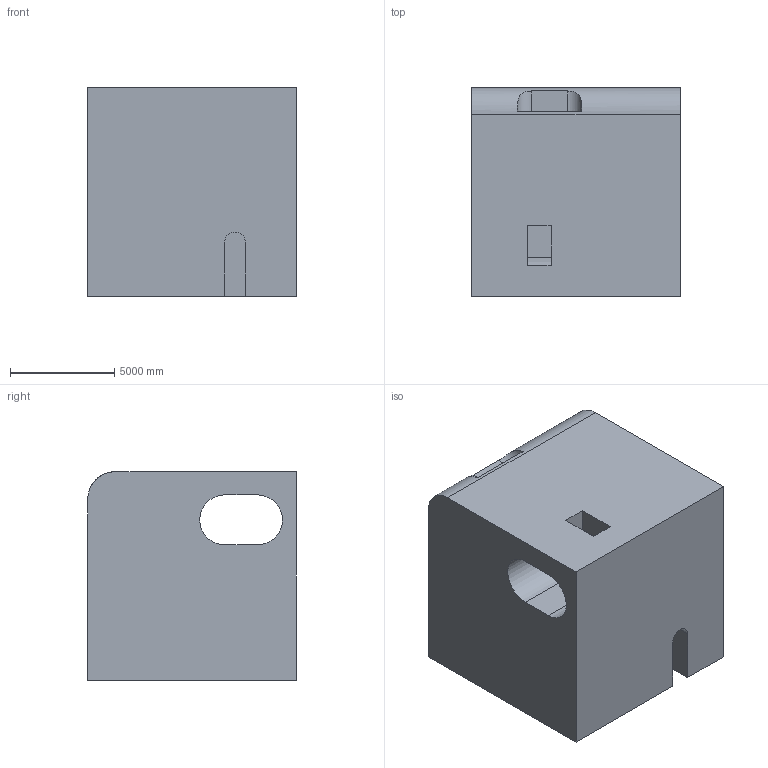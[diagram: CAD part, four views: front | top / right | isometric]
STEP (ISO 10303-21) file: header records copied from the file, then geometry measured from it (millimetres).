
FILE_DESCRIPTION (( 'STEP AP203' ), '1' );
FILE_NAME ('1654.STEP', '2022-08-19T11:24:11', ( 'user' ), ( '' ), 'SwSTEP 2.0', 'SolidWorks 2021', '' );
FILE_SCHEMA (( 'CONFIG_CONTROL_DESIGN' ));
Length unit declared in the file: centimetre
Products named in the file (1): 1654
Bounding box: 10000 x 10000 x 10000 mm (x, y, z)
Volume: 873946310780.7 mm3; surface area: 739496983.3 mm2
Topology: 1 solids, 1 shells, 34 faces, 93 edges, 62 vertices
Faces by surface type: plane 26, cylinder 8
Entity records: 1304 total; most frequent: CARTESIAN_POINT 340, ORIENTED_EDGE 186, DIRECTION 177, EDGE_CURVE 93, VECTOR 75, LINE 75, VERTEX_POINT 62, AXIS2_PLACEMENT_3D 51
